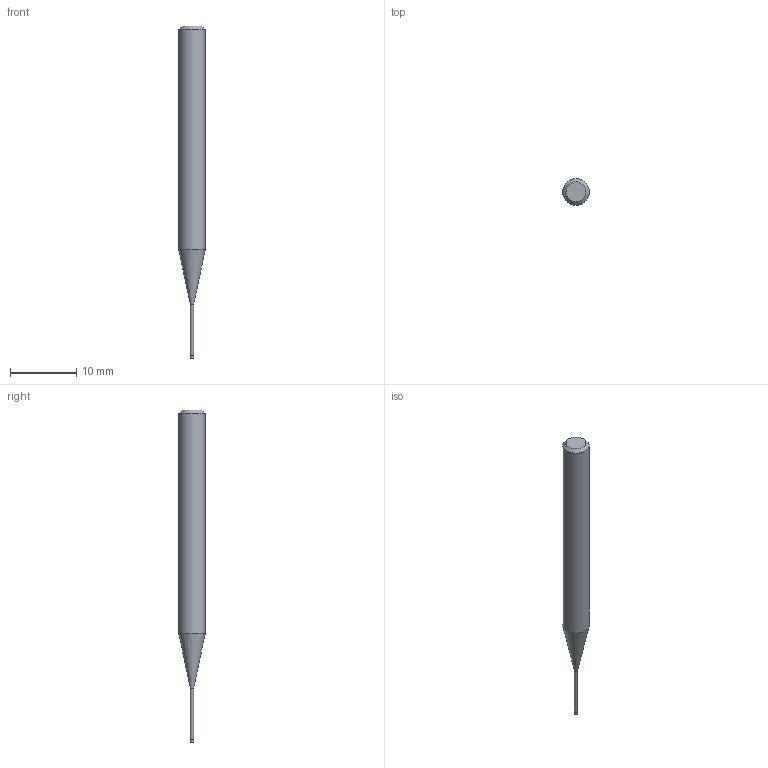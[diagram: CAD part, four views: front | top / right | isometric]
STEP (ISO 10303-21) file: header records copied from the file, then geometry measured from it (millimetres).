
FILE_DESCRIPTION((''),'2;1');
FILE_NAME('C:\Users\nsx150\AppData\Local\Temp\Mastercam 2021\RJ5U8K7RMU\TEMP.step','2021-04-21T16:40:17',(''),(''),'STEP Write','Mastercam 2021 ... CNC Software, Inc.','');
FILE_SCHEMA(('AUTOMOTIVE_DESIGN'));
Length unit declared in the file: millimetre
Products named in the file (1): None
Bounding box: 4 x 4 x 50 mm (x, y, z)
Volume: 462.4 mm3; surface area: 503.5 mm2
Topology: 2 solids, 2 shells, 9 faces, 12 edges, 7 vertices
Faces by surface type: plane 4, cylinder 3, cone 2
Full cylindrical faces by diameter (mm): 0.46 x1, 0.5 x1, 4 x1
Entity records: 211 total; most frequent: DIRECTION 36, CARTESIAN_POINT 25, AXIS2_PLACEMENT_3D 18, ORIENTED_EDGE 14, EDGE_LOOP 14, STYLED_ITEM 12, ADVANCED_FACE 9, FACE_BOUND 8
